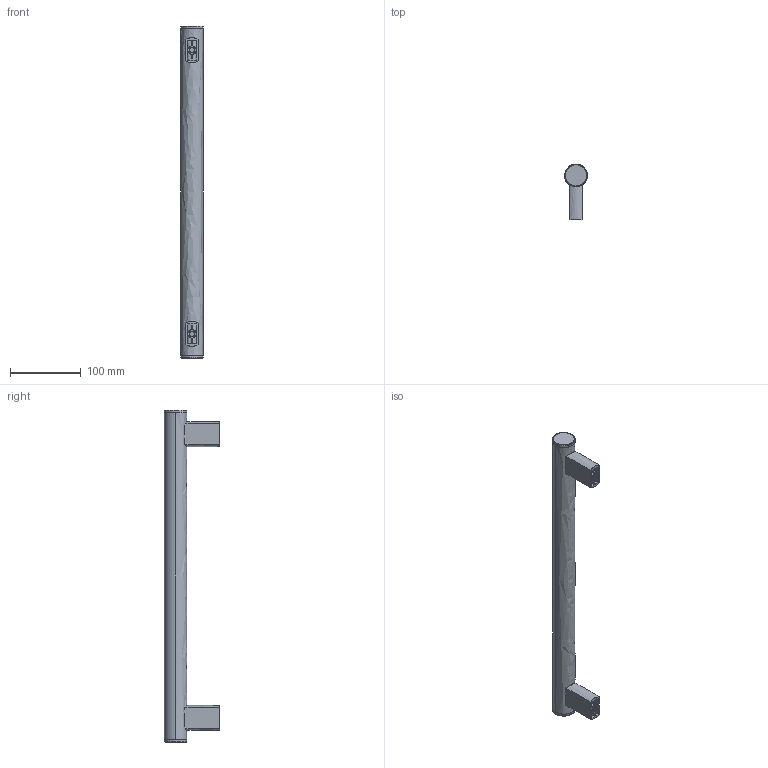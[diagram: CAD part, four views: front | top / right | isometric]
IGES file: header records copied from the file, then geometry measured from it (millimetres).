
Start section: SolidWorks IGES file using analytic representation for surfaces
Global section: file name: C:\Documents and Settings\Deathkiller\桌面\3D IGES\U型把手\MS-737-2 sus\p=400.IGS; native system: SolidWorks 2006 by SolidWorks Corporation; preprocessor: SolidWorks 2006 by SolidWorks Corporation; author: Deathkiller; date: 080624.122401; units: millimetre
Bounding box: 31.8 x 77.9 x 468 mm (x, y, z)
Surface area: 117837.1 mm2 (no closed solid volume)
Topology: 0 solids, 0 shells, 190 faces, 5022 edges, 5022 vertices
Faces by surface type: revolution 142, bspline 48
